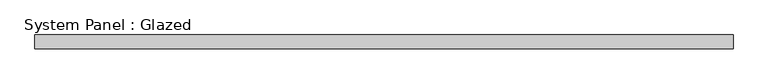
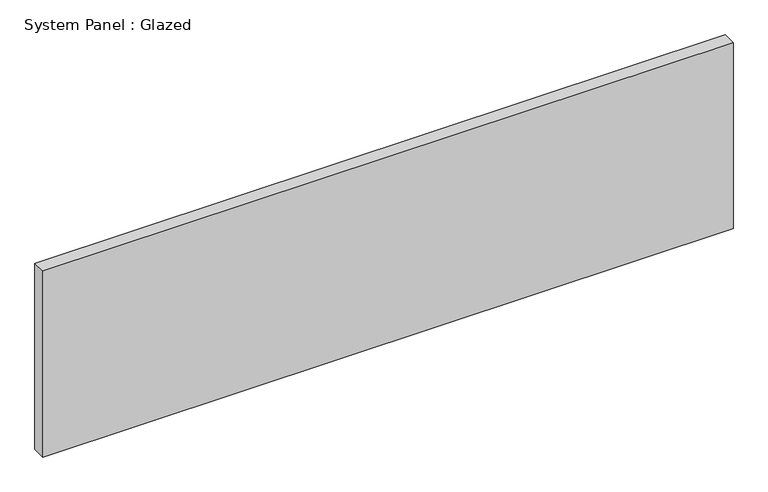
"""IFC4 building model written with IfcOpenShell, lengths in millimetres: plate geometry, System Panel : Glazed."""

import ifcopenshell
import ifcopenshell.guid

model = None  # the IFC model being written
_history = None  # IfcOwnerHistory: only IFC2X3 demands one
_inside = {}  # id of a spatial element -> (the spatial element, [elements in it])
_under = {}  # id of a project, library or spatial element -> (it, [spatial elements below it])
_declared = {}  # id of a project -> (the project, [libraries it declares])
_typed = {}  # id of a type object -> (the type object, [elements of that type])
_made_of = {}  # id of a material, layer set ... -> (it, [elements and type objects made of it])


def new_model(schema):
    """Start an empty IFC model of exactly this schema.

    Asked for "IFC4X3", IfcOpenShell would pick the latest addendum, in which some entities
    have other attributes; the version numbers below select the first issue.
    IFC2X3 requires an IfcOwnerHistory on every rooted entity: one is made here for all.
    """
    global model, _history
    if schema == "IFC4X3":
        model = ifcopenshell.file(schema_version=(4, 3, 0, 0))
    else:
        model = ifcopenshell.file(schema=schema)
    _inside.clear()
    _under.clear()
    _declared.clear()
    _typed.clear()
    _made_of.clear()
    _history = None
    if model.schema == "IFC2X3":
        org = make("IfcOrganization", Name="unknown")
        user = make(
            "IfcPersonAndOrganization",
            ThePerson=make("IfcPerson", FamilyName="unknown"),
            TheOrganization=org,
        )
        app = make(
            "IfcApplication",
            ApplicationDeveloper=org,
            Version="unknown",
            ApplicationFullName="unknown",
            ApplicationIdentifier="unknown",
        )
        _history = make(
            "IfcOwnerHistory",
            OwningUser=user,
            OwningApplication=app,
            ChangeAction="ADDED",
            CreationDate=0,
        )
    return model


def make(cls, **values):
    """One entity of the class cls with the attributes given. An attribute that is None is left unset."""
    return model.create_entity(
        cls, **{name: value for name, value in values.items() if value is not None}
    )


def rooted(cls, **values):
    """An entity with a GlobalId (a new one), such as an element, a storey or a relation."""
    return make(cls, GlobalId=ifcopenshell.guid.new(), OwnerHistory=_history, **values)


def si_unit(unit_type, name, prefix=None):
    """IfcSIUnit, for example si_unit("LENGTHUNIT", "METRE", prefix="MILLI")."""
    return make("IfcSIUnit", UnitType=unit_type, Prefix=prefix, Name=name)


def assignment(units):
    """IfcUnitAssignment: the units of a project."""
    return None if units is None else make("IfcUnitAssignment", Units=units)


def point(xyz):
    """IfcCartesianPoint."""
    return None if xyz is None else make("IfcCartesianPoint", Coordinates=xyz)


def direction(xyz):
    """IfcDirection."""
    return None if xyz is None else make("IfcDirection", DirectionRatios=xyz)


def frame(location, z_axis=None, x_axis=None):
    """IfcAxis2Placement3D, a coordinate frame: its origin and axes. An axis left out is left unset."""
    return make(
        "IfcAxis2Placement3D",
        Location=point(location),
        Axis=direction(z_axis),
        RefDirection=direction(x_axis),
    )


def origin():
    """The frame at (0, 0, 0) with its axes left unset."""
    return frame((0.0, 0.0, 0.0))


def origin_with_axes():
    """The frame at (0, 0, 0) with the z axis (0, 0, 1) and the x axis (1, 0, 0) written out."""
    return frame((0.0, 0.0, 0.0), z_axis=(0.0, 0.0, 1.0), x_axis=(1.0, 0.0, 0.0))


def place(relative_to, where):
    """IfcLocalPlacement: puts the frame where relative to a parent placement (None: the world)."""
    return make(
        "IfcLocalPlacement", PlacementRelTo=relative_to, RelativePlacement=where
    )


def context(
    kind, dimensions, precision=None, world=None, true_north=None, identifier=None
):
    """IfcGeometricRepresentationContext, for example the 3D "Model" context."""
    return make(
        "IfcGeometricRepresentationContext",
        ContextIdentifier=identifier,
        ContextType=kind,
        CoordinateSpaceDimension=dimensions,
        Precision=precision,
        WorldCoordinateSystem=world,
        TrueNorth=true_north,
    )


def project(units=None, contexts=None):
    """IfcProject with its units and contexts."""
    return rooted(
        "IfcProject",
        Name="project",
        RepresentationContexts=contexts,
        UnitsInContext=assignment(units),
    )


def spatial(cls, under=None, at=None, **own):
    """A site, building, storey or space (cls), placed at a placement, below another one or the project."""
    s = rooted(cls, ObjectPlacement=at, **own)
    if under is not None:
        _under.setdefault(under.id(), (under, []))[1].append(s)
    return s


def polyline(points):
    """IfcPolyline through the points."""
    return make("IfcPolyline", Points=[point(p) for p in points])


def outline(outer, holes=None, kind="AREA"):
    """IfcArbitraryClosedProfileDef: a profile drawn as a closed curve; with holes, ...WithVoids."""
    if holes is None:
        return make("IfcArbitraryClosedProfileDef", ProfileType=kind, OuterCurve=outer)
    return make(
        "IfcArbitraryProfileDefWithVoids",
        ProfileType=kind,
        OuterCurve=outer,
        InnerCurves=holes,
    )


def extrude(swept, where, along, depth):
    """IfcExtrudedAreaSolid: the profile swept, set in the frame where, extruded along a direction by depth."""
    return make(
        "IfcExtrudedAreaSolid",
        SweptArea=swept,
        Position=where,
        ExtrudedDirection=direction(along),
        Depth=depth,
    )


def shape(context_of_items, identifier, shape_type, items):
    """IfcShapeRepresentation: the items that make up one representation, for example the "Body"."""
    return make(
        "IfcShapeRepresentation",
        ContextOfItems=context_of_items,
        RepresentationIdentifier=identifier,
        RepresentationType=shape_type,
        Items=items,
    )


def source(mapping_origin, context_of_items, identifier, shape_type, items):
    """IfcRepresentationMap: a shape defined once, which mapped items show again and again."""
    return make(
        "IfcRepresentationMap",
        MappingOrigin=mapping_origin,
        MappedRepresentation=shape(context_of_items, identifier, shape_type, items),
    )


def transform(
    local_origin,
    x_axis=None,
    y_axis=None,
    z_axis=None,
    scale=None,
    scale2=None,
    scale3=None,
    uniform=True,
):
    """IfcCartesianTransformationOperator3D, or its non-uniform kind. x_axis, y_axis, z_axis: its Axis1, 2, 3."""
    if uniform:
        return make(
            "IfcCartesianTransformationOperator3D",
            Axis1=direction(x_axis),
            Axis2=direction(y_axis),
            LocalOrigin=point(local_origin),
            Scale=scale,
            Axis3=direction(z_axis),
        )
    return make(
        "IfcCartesianTransformationOperator3DnonUniform",
        Axis1=direction(x_axis),
        Axis2=direction(y_axis),
        LocalOrigin=point(local_origin),
        Scale=scale,
        Axis3=direction(z_axis),
        Scale2=scale2,
        Scale3=scale3,
    )


def mapped(mapping_source, mapping_target):
    """IfcMappedItem: shows the shape of a source again, moved by a transform."""
    return make(
        "IfcMappedItem", MappingSource=mapping_source, MappingTarget=mapping_target
    )


def made_of(thing, what):
    """Note that an element or type object is made of a material, layer set ...; save() writes the relation."""
    if what is not None:
        _made_of.setdefault(what.id(), (what, []))[1].append(thing)
    return thing


def element(
    cls,
    number,
    at=None,
    inside=None,
    cuts=None,
    type_object=None,
    material=None,
    context=None,
    identifier="Body",
    shape_type=None,
    held_by="IfcProductDefinitionShape",
    body=None,
    shapes=None,
    **own,
):
    """One element of the class cls, such as IfcWall. Its Tag is "e" and its number.

    at: its placement. inside: the storey or other place that contains it. cuts: it is an
    opening in that element (IfcRelVoidsElement). A single representation is given by context,
    identifier, shape_type and body (its items); several are given by shapes. held_by: the class
    of the entity that holds the representations. save() writes the other relations.
    """
    e = rooted(cls, Tag="e%d" % number, ObjectPlacement=at, **own)
    if body is not None:
        shapes = [shape(context, identifier, shape_type, body)]
    if shapes is not None:
        e.Representation = make(held_by, Representations=shapes)
    if inside is not None:
        _inside.setdefault(inside.id(), (inside, []))[1].append(e)
    if cuts is not None:
        rooted(
            "IfcRelVoidsElement", RelatingBuildingElement=cuts, RelatedOpeningElement=e
        )
    if type_object is not None:
        _typed.setdefault(type_object.id(), (type_object, []))[1].append(e)
    return made_of(e, material)


def aggregate(whole, parts):
    """IfcRelAggregates: a whole, such as a stair, and the parts it consists of."""
    return rooted("IfcRelAggregates", RelatingObject=whole, RelatedObjects=parts)


def save(model, path):
    """Write the relations noted so far, then the file.

    IfcRelAggregates (storeys below a building ...), IfcRelContainedInSpatialStructure (elements
    in a storey), IfcRelDefinesByType, IfcRelAssociatesMaterial and IfcRelDeclares: one each for
    every whole, place, type object, material and project.
    """
    for whole, parts in _under.values():
        aggregate(whole, parts)
    for where, things in _inside.values():
        rooted(
            "IfcRelContainedInSpatialStructure",
            RelatedElements=things,
            RelatingStructure=where,
        )
    for kind, things in _typed.values():
        rooted("IfcRelDefinesByType", RelatedObjects=things, RelatingType=kind)
    for what, things in _made_of.values():
        rooted("IfcRelAssociatesMaterial", RelatedObjects=things, RelatingMaterial=what)
    for by, libraries in _declared.values():
        rooted("IfcRelDeclares", RelatingContext=by, RelatedDefinitions=libraries)
    model.write(path)


def system_panel_glazed_7dd99155(model_context):
    return source(origin(), model_context, "Body", "SweptSolid", [
        extrude(outline(polyline([(645.5833332, -44.45), (-645.5833332, -44.45), (-645.5833332, -19.05), (645.5833332, -19.05), (645.5833332, -44.45)])), origin_with_axes(), (0.0, 0.0, 1.0), 368.3),
    ])


if __name__ == "__main__":
    model = new_model("IFC4")
    model_context = context("Model", 3, world=origin())
    ifc_project = project(units=[si_unit("LENGTHUNIT", "METRE", prefix="MILLI")], contexts=[model_context])
    site = spatial("IfcSite", under=ifc_project)
    building = spatial("IfcBuilding", under=site)
    placement = place(None, origin())
    system_panel_glazed_shape = system_panel_glazed_7dd99155(model_context)
    element("IfcPlate", 1, ObjectType="System Panel : Glazed", at=placement, inside=building, context=model_context, shape_type="MappedRepresentation", body=[
        mapped(system_panel_glazed_shape, transform((0.0, 0.0, 0.0), x_axis=(1.0, 0.0, 0.0), y_axis=(0.0, 1.0, 0.0), z_axis=(0.0, 0.0, 1.0))),
    ])
    save(model, "model.ifc")
